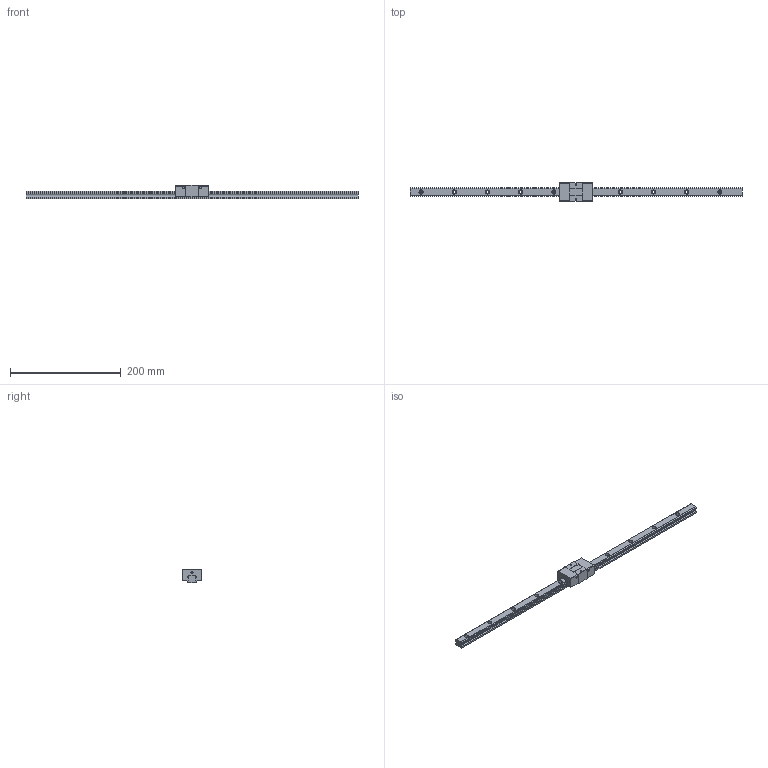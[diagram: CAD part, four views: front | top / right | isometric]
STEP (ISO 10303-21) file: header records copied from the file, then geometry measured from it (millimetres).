
FILE_DESCRIPTION (( 'STEP AP203' ), '1' );
FILE_NAME ('TRS15VS-WZ.STEP', '2024-06-12T06:29:38', ( '' ), ( '' ), 'SwSTEP 2.0', 'SolidWorks 2022', '' );
FILE_SCHEMA (( 'CONFIG_CONTROL_DESIGN' ));
Length unit declared in the file: millimetre
Products named in the file (1): TRS15VS-WZ
Bounding box: 600 x 34 x 24 mm (x, y, z)
Volume: 133609.1 mm3; surface area: 46316.1 mm2
Topology: 2 solids, 2 shells, 186 faces, 484 edges, 320 vertices
Faces by surface type: plane 94, cylinder 92
Entity records: 5863 total; most frequent: DIRECTION 1042, CARTESIAN_POINT 991, ORIENTED_EDGE 968, EDGE_CURVE 484, AXIS2_PLACEMENT_3D 371, VERTEX_POINT 320, VECTOR 300, LINE 300
